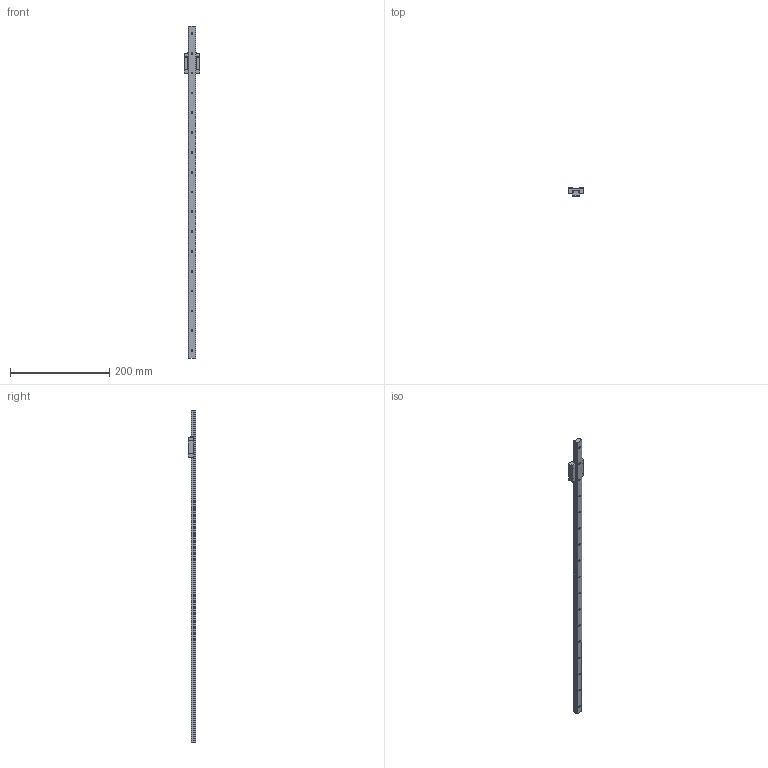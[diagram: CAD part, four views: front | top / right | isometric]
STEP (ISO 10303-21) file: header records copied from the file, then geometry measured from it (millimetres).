
FILE_DESCRIPTION(('STEP AP203'),'1');
FILE_NAME('//192.168.1.1/share/s-4 技術開発/s-4-4_CAD/s-4-4-3_見直し済み/015 修正済み/AMG/AMG_TOP/AMG15-B1-670.step','2022-03-11T05:22:46',(' '),(' '),'Spatial InterOp 3D',' ',' ');
FILE_SCHEMA(('CONFIG_CONTROL_DESIGN'));
Length unit declared in the file: millimetre
Products named in the file (2): 1; 2
Bounding box: 32 x 16 x 670 mm (x, y, z)
Volume: 95482.7 mm3; surface area: 40301 mm2
Topology: 2 solids, 2 shells, 147 faces, 383 edges, 257 vertices
Faces by surface type: plane 87, cylinder 56, cone 4
Full cylindrical faces by diameter (mm): 2.5 x8, 3.5 x17, 6 x17
Entity records: 4242 total; most frequent: DIRECTION 718, CARTESIAN_POINT 697, ORIENTED_EDGE 624, EDGE_CURVE 312, AXIS2_PLACEMENT_3D 257, EDGE_LOOP 244, VERTEX_POINT 236, LINE 204
